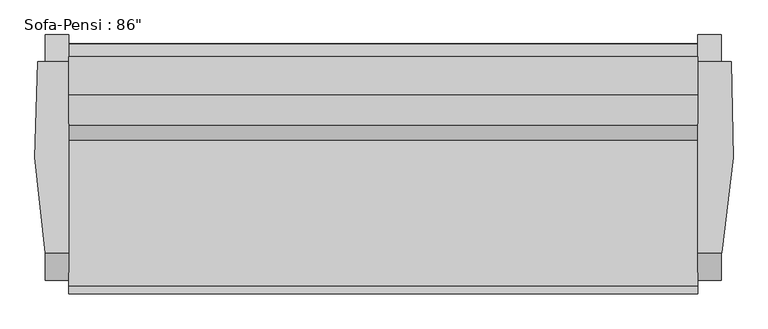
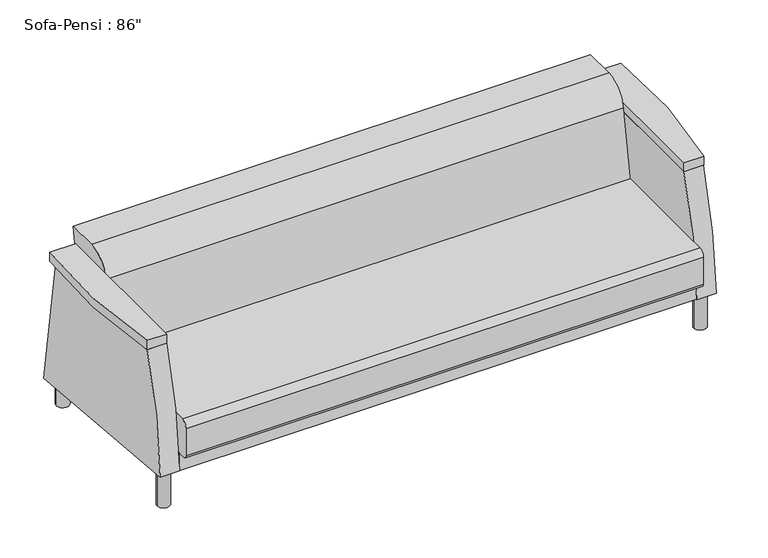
"""IFC4 building model written with IfcOpenShell, lengths in millimetres: furniture geometry."""

from ifc_helpers import new_model, si_unit, point, frame, frame_2d, origin, origin_with_axes, place, context, project, spatial, polyline, circle_curve, trimmed, segment, composite_curve, outline, extrude, source, transform, mapped, element, save


def furniture_85b1757a(model_context):
    return source(origin(), model_context, "Body", "SweptSolid", [
        extrude(outline(composite_curve([segment(trimmed(circle_curve(frame_2d((-775.49375, -53.0901639)), 25.4), [point((-800.89375, -53.0901639))], [point((-750.09375, -53.0901639))], False, "CARTESIAN"), True, "CONTINUOUS"), segment(trimmed(circle_curve(frame_2d((-775.49375, -53.0901639)), 25.4), [point((-750.09375, -53.0901639))], [point((-800.89375, -53.0901639))], False, "CARTESIAN"), True, "CONTINUOUS")], self_intersect=False)), origin_with_axes(), (0.0, 0.0, 1.0), 148.43125),
        extrude(outline(composite_curve([segment(trimmed(circle_curve(frame_2d((-775.49375, 632.7098361)), 25.4), [point((-800.89375, 632.7098361))], [point((-750.09375, 632.7098361))], False, "CARTESIAN"), True, "CONTINUOUS"), segment(trimmed(circle_curve(frame_2d((-775.49375, 632.7098361)), 25.4), [point((-750.09375, 632.7098361))], [point((-800.89375, 632.7098361))], False, "CARTESIAN"), True, "CONTINUOUS")], self_intersect=False)), origin_with_axes(), (0.0, 0.0, 1.0), 148.43125),
        extrude(outline(composite_curve([segment(trimmed(circle_curve(frame_2d((1332.70625, 632.7098361)), 25.4), [point((1307.30625, 632.7098361))], [point((1358.10625, 632.7098361))], False, "CARTESIAN"), True, "CONTINUOUS"), segment(trimmed(circle_curve(frame_2d((1332.70625, 632.7098361)), 25.4), [point((1358.10625, 632.7098361))], [point((1307.30625, 632.7098361))], False, "CARTESIAN"), True, "CONTINUOUS")], self_intersect=False)), origin_with_axes(), (0.0, 0.0, 1.0), 148.43125),
        extrude(outline(composite_curve([segment(trimmed(circle_curve(frame_2d((1332.70625, -53.0901639)), 25.4), [point((1307.30625, -53.0901639))], [point((1358.10625, -53.0901639))], False, "CARTESIAN"), True, "CONTINUOUS"), segment(trimmed(circle_curve(frame_2d((1332.70625, -53.0901639)), 25.4), [point((1358.10625, -53.0901639))], [point((1307.30625, -53.0901639))], False, "CARTESIAN"), True, "CONTINUOUS")], self_intersect=False)), origin_with_axes(), (0.0, 0.0, 1.0), 148.43125),
        extrude(outline(polyline([(1294.60625, 668.3047863), (1294.60625, -93.6952137), (-737.39375, -93.6952137), (-737.39375, 668.3047863), (1294.60625, 668.3047863)])), frame((0.0, 0.0, 148.0509954), z_axis=(0.0, 0.0, 1.0), x_axis=(1.0, 0.0, 0.0)), (0.0, 0.0, 1.0), 76.2),
        extrude(outline(composite_curve([segment(polyline([(-9.3943348, 626.0203985), (608.6917937, 626.0203985), (696.2098361, 79.844579), (-97.7900405, 149.3105671)]), True, "CONTINUOUS"), segment(trimmed(circle_curve(frame_2d((1499.9783711, 99.5888442)), 1598.5418814), [point((-97.7900405, 149.3105671))], [point((-9.3943348, 626.0203985))], False, "CARTESIAN"), True, "CONTINUOUS")], self_intersect=False)), frame((-813.59375, 0.0, 0.0), z_axis=(1.0, 0.0, 0.0), x_axis=(0.0, 1.0, 0.0)), (0.0, 0.0, 1.0), 76.2),
        extrude(outline(composite_curve([segment(polyline([(696.2098361, 79.844579), (-97.7900405, 149.3105671)]), True, "CONTINUOUS"), segment(trimmed(circle_curve(frame_2d((1499.9783711, 99.5888442)), 1598.5418814), [point((-97.7900405, 149.3105671))], [point((-9.3943348, 626.0203985))], False, "CARTESIAN"), True, "CONTINUOUS"), segment(polyline([(-9.3943348, 626.0203985), (608.6917937, 626.0203985), (696.2098361, 79.844579)]), True, "CONTINUOUS")], self_intersect=False)), frame((1294.60625, 0.0, 0.0), z_axis=(1.0, 0.0, 0.0), x_axis=(0.0, 1.0, 0.0)), (0.0, 0.0, 1.0), 76.2),
        extrude(outline(composite_curve([segment(trimmed(circle_curve(frame_2d((-116.5901639, 351.2509954)), 25.4), [point((-141.9901639, 351.2509954))], [point((-116.5901639, 376.6509954))], False, "CARTESIAN"), True, "CONTINUOUS"), segment(polyline([(-116.5901639, 376.6509954), (355.3895541, 376.6509954), (402.1988177, 642.1195211)]), True, "CONTINUOUS"), segment(trimmed(circle_curve(frame_2d((502.2552854, 624.4768662)), 101.6), [point((402.1988177, 642.1195211))], [point((502.2552854, 726.0768662))], False, "CARTESIAN"), True, "CONTINUOUS"), segment(polyline([(502.2552854, 726.0768662), (626.3344485, 726.0768662), (609.5377828, 620.1719187), (667.6541767, 224.2509954), (-126.1151639, 224.2509954)]), True, "CONTINUOUS"), segment(trimmed(circle_curve(frame_2d((-126.1151639, 240.1259954)), 15.875), [point((-126.1151639, 224.2509954))], [point((-141.9901639, 240.1259954))], False, "CARTESIAN"), True, "CONTINUOUS"), segment(polyline([(-141.9901639, 240.1259954), (-141.9901639, 351.2509954)]), True, "CONTINUOUS")], self_intersect=False)), frame((-737.39375, 0.0, 0.0), z_axis=(1.0, 0.0, 0.0), x_axis=(0.0, 1.0, 0.0)), (0.0, 0.0, 1.0), 2032.0),
        extrude(outline(composite_curve([segment(polyline([(-737.39375, -9.3943348), (-813.59375, -9.3943348)]), True, "CONTINUOUS"), segment(trimmed(circle_curve(frame_2d((1404.9527561, 391.340904)), 2254.448343), [point((-813.59375, -9.3943348))], [point((-838.99375, 608.6917935))], False, "CARTESIAN"), True, "CONTINUOUS"), segment(polyline([(-838.99375, 608.6917935), (-737.39375, 608.6917935), (-737.39375, -9.3943348)]), True, "CONTINUOUS")], self_intersect=False)), frame((0.0, 0.0, 626.0203985), z_axis=(0.0, 0.0, 1.0), x_axis=(1.0, 0.0, 0.0)), (0.0, 0.0, 1.0), 38.1),
        extrude(outline(composite_curve([segment(polyline([(1294.60625, -9.3943348), (1294.60625, 608.9395268), (1403.2864453, 608.9395268)]), True, "CONTINUOUS"), segment(trimmed(circle_curve(frame_2d((-846.7771494, 409.5015741)), 2258.8850518), [point((1403.2864453, 608.9395268))], [point((1372.9273117, -9.3943348))], False, "CARTESIAN"), True, "CONTINUOUS"), segment(polyline([(1372.9273117, -9.3943348), (1294.60625, -9.3943348)]), True, "CONTINUOUS")], self_intersect=False)), frame((0.0, 0.0, 626.0203985), z_axis=(0.0, 0.0, 1.0), x_axis=(1.0, 0.0, 0.0)), (0.0, 0.0, 1.0), 38.1),
    ])


if __name__ == "__main__":
    model = new_model("IFC4")
    model_context = context("Model", 3, world=origin())
    ifc_project = project(units=[si_unit("LENGTHUNIT", "METRE", prefix="MILLI")], contexts=[model_context])
    site = spatial("IfcSite", under=ifc_project)
    building = spatial("IfcBuilding", under=site)
    placement = place(None, origin())
    furniture_shape = furniture_85b1757a(model_context)
    element("IfcFurniture", 1, ObjectType="Sofa-Pensi : 86\"", at=placement, inside=building, context=model_context, shape_type="MappedRepresentation", body=[
        mapped(furniture_shape, transform((0.0, 0.0, 0.0), x_axis=(1.0, 0.0, 0.0), y_axis=(0.0, 1.0, 0.0), z_axis=(0.0, 0.0, 1.0))),
    ])
    save(model, "model.ifc")
